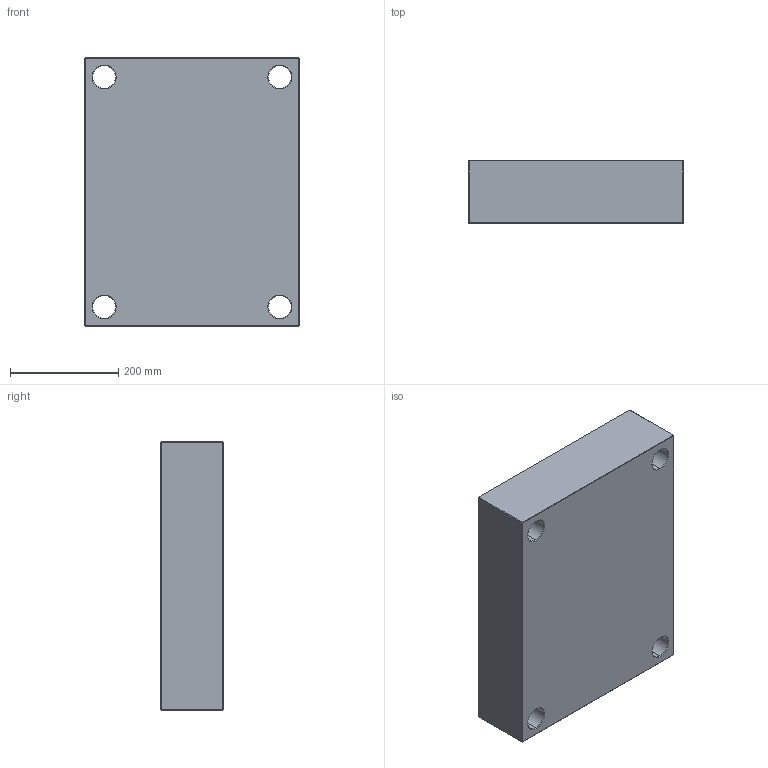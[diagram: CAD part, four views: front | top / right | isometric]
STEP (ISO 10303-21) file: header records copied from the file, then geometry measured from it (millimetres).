
FILE_DESCRIPTION (( 'STEP AP214' ), '1' );
FILE_NAME ('PC-396x496x116.STEP', '2020-04-21T17:24:50', ( 'August' ), ( '' ), 'SwSTEP 2.0', 'SolidWorks 2018', '' );
FILE_SCHEMA (( 'AUTOMOTIVE_DESIGN' ));
Length unit declared in the file: millimetre
Products named in the file (1): PC-396x496x116
Bounding box: 396 x 116 x 496 mm (x, y, z)
Volume: 22107927.6 mm3; surface area: 652287.8 mm2
Topology: 1 solids, 1 shells, 82 faces, 168 edges, 96 vertices
Faces by surface type: plane 34, cone 24, cylinder 24
Entity records: 2170 total; most frequent: DIRECTION 406, CARTESIAN_POINT 347, ORIENTED_EDGE 336, EDGE_CURVE 168, AXIS2_PLACEMENT_3D 155, EDGE_LOOP 98, VERTEX_POINT 96, LINE 96
